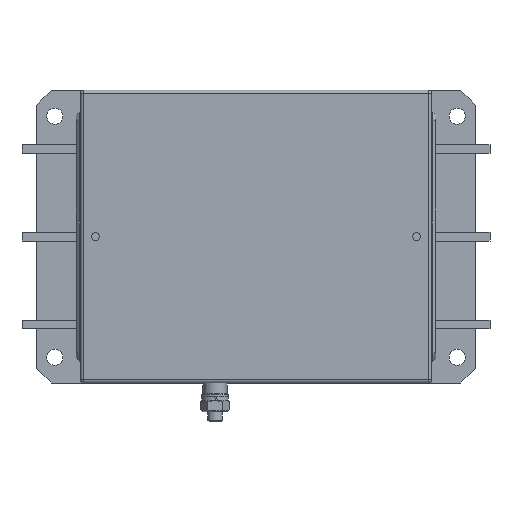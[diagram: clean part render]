
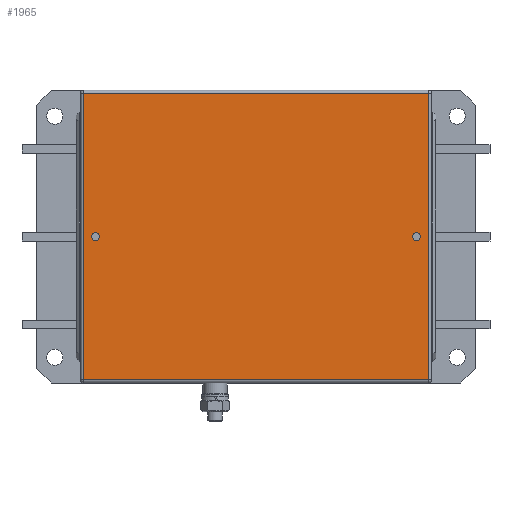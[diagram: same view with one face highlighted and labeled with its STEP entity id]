
A CAD part, top view. The second image highlights one B-rep face of the part: STEP entity #1965.
In plain terms, the highlighted planar face has unit normal (0, 0, 1).
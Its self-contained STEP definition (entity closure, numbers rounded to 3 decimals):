
#508=CARTESIAN_POINT('',(-107.,0.,86.0));
#509=VERTEX_POINT('',#508);
#510=CARTESIAN_POINT('',(-109.75,0.0,86.0));
#511=DIRECTION('',(0.0,0.0,-1.0));
#512=DIRECTION('',(-1.0,0.0,0.0));
#513=AXIS2_PLACEMENT_3D('',#510,#511,#512);
#514=CIRCLE('',#513,2.75);
#515=EDGE_CURVE('',#509,#509,#514,.T.);
#545=CARTESIAN_POINT('',(112.5,0.,86.0));
#546=VERTEX_POINT('',#545);
#547=CARTESIAN_POINT('',(109.75,0.0,86.0));
#548=DIRECTION('',(0.0,0.0,-1.0));
#549=DIRECTION('',(-1.0,0.0,0.0));
#550=AXIS2_PLACEMENT_3D('',#547,#548,#549);
#551=CIRCLE('',#550,2.75);
#552=EDGE_CURVE('',#546,#546,#551,.T.);
#1557=CARTESIAN_POINT('',(118.,98.,86.0));
#1558=VERTEX_POINT('',#1557);
#1675=CARTESIAN_POINT('',(118.,-98.,86.0));
#1676=VERTEX_POINT('',#1675);
#1733=CARTESIAN_POINT('',(-118.,-98.,86.0));
#1734=VERTEX_POINT('',#1733);
#1791=CARTESIAN_POINT('',(-118.,98.,86.0));
#1792=VERTEX_POINT('',#1791);
#1886=CARTESIAN_POINT('',(118.,98.,86.0));
#1887=DIRECTION('',(0.0,-1.0,0.0));
#1888=VECTOR('',#1887,196.);
#1889=LINE('',#1886,#1888);
#1890=EDGE_CURVE('',#1558,#1676,#1889,.T.);
#1903=CARTESIAN_POINT('',(118.,-98.,86.0));
#1904=DIRECTION('',(-1.0,0.0,0.0));
#1905=VECTOR('',#1904,236.0);
#1906=LINE('',#1903,#1905);
#1907=EDGE_CURVE('',#1676,#1734,#1906,.T.);
#1920=CARTESIAN_POINT('',(-118.,-98.,86.0));
#1921=DIRECTION('',(0.0,1.0,0.0));
#1922=VECTOR('',#1921,196.0);
#1923=LINE('',#1920,#1922);
#1924=EDGE_CURVE('',#1734,#1792,#1923,.T.);
#1939=CARTESIAN_POINT('',(-118.,98.,86.0));
#1940=DIRECTION('',(1.0,0.0,0.0));
#1941=VECTOR('',#1940,236.0);
#1942=LINE('',#1939,#1941);
#1943=EDGE_CURVE('',#1792,#1558,#1942,.T.);
#1948=CARTESIAN_POINT('',(0.,0.,86.0));
#1949=DIRECTION('',(0.0,0.0,1.0));
#1950=DIRECTION('',(1.0,0.0,0.0));
#1951=AXIS2_PLACEMENT_3D('',#1948,#1949,#1950);
#1952=PLANE('',#1951);
#1953=ORIENTED_EDGE('',*,*,#1890,.F.);
#1954=ORIENTED_EDGE('',*,*,#1943,.F.);
#1955=ORIENTED_EDGE('',*,*,#1924,.F.);
#1956=ORIENTED_EDGE('',*,*,#1907,.F.);
#1957=EDGE_LOOP('',(#1953,#1954,#1955,#1956));
#1958=FACE_OUTER_BOUND('',#1957,.T.);
#1959=ORIENTED_EDGE('',*,*,#515,.T.);
#1960=EDGE_LOOP('',(#1959));
#1961=FACE_BOUND('',#1960,.T.);
#1962=ORIENTED_EDGE('',*,*,#552,.T.);
#1963=EDGE_LOOP('',(#1962));
#1964=FACE_BOUND('',#1963,.T.);
#1965=ADVANCED_FACE('',(#1958,#1961,#1964),#1952,.T.);
